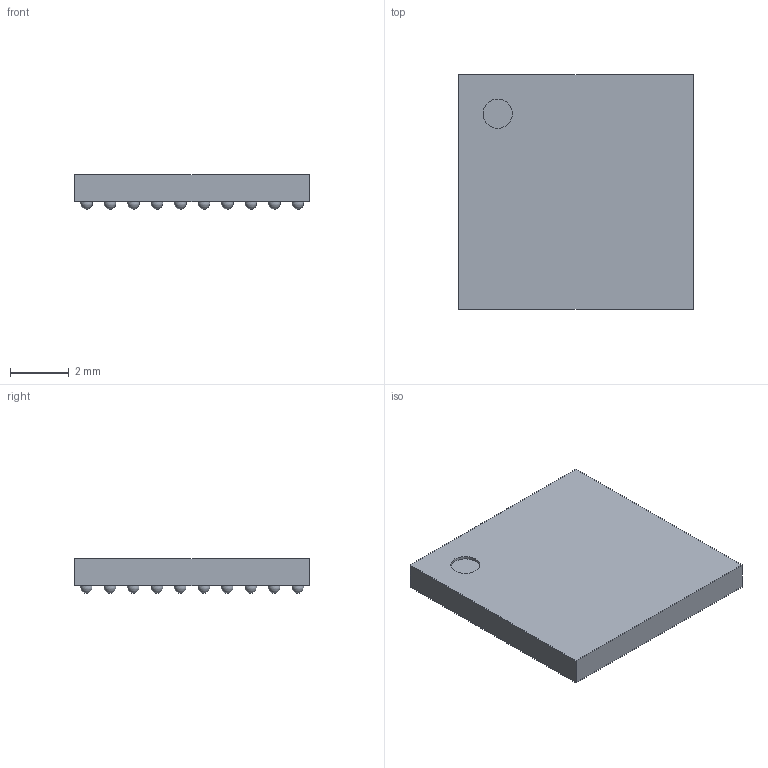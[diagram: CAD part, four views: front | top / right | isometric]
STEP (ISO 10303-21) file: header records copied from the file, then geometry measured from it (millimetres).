
FILE_DESCRIPTION(('Open CASCADE Model'),'2;1');
FILE_NAME('Open CASCADE Shape Model','2026-03-27T17:19:44',('Author'),( 'Open CASCADE'),'Open CASCADE STEP processor 7.5','Open CASCADE 7.5' ,'Unknown');
FILE_SCHEMA(('AUTOMOTIVE_DESIGN { 1 0 10303 214 1 1 1 1 }'));
Length unit declared in the file: millimetre
Products named in the file (7): PCB; Designator1; 8707780560; Open CASCADE STEP translator 7.5 67.1; Body; Open CASCADE STEP translator 7.5 67.2.1; ball
Assembly tree (104 placements, depth 4):
  PCB
  Designator1
    8707780560
      Open CASCADE STEP translator 7.5 67.1
      Body
        Open CASCADE STEP translator 7.5 67.2.1
      ball  x100
Bounding box: 8 x 8 x 1.17 mm (x, y, z)
Volume: 62.5 mm3; surface area: 211.4 mm2
Topology: 101 solids, 102 shells, 109 faces, 316 edges, 211 vertices
Faces by surface type: sphere 100, plane 8, cylinder 1
Full cylindrical faces by diameter (mm): 1 x1
Entity records: 1167 total; most frequent: DIRECTION 249, CARTESIAN_POINT 143, AXIS2_PLACEMENT_3D 118, PRODUCT_DEFINITION_SHAPE 111, CONTEXT_DEPENDENT_SHAPE_REPRESENTATION 104, ITEM_DEFINED_TRANSFORMATION 104, NEXT_ASSEMBLY_USAGE_OCCURRENCE 104, ORIENTED_EDGE 31
